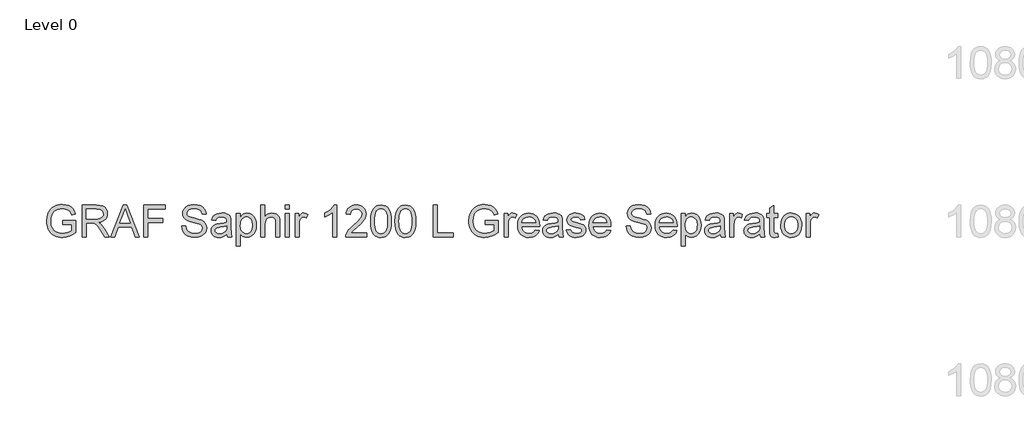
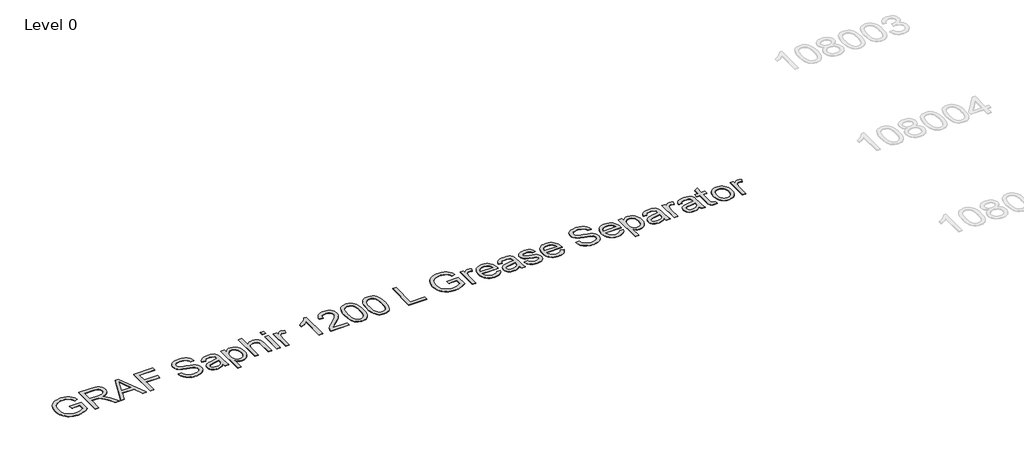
# One storey, part 1 of 15: 1 proxy.
"""IFC4 building model written with IfcOpenShell, lengths in millimetres."""

from ifc_helpers import new_model, si_unit, origin, origin_with_axes, place, context, project, spatial, polyline, outline, extrude, element, save

model = new_model("IFC4")

# Units and contexts
model_context = context("Model", 3, world=origin())
ifc_project = project(units=[si_unit("LENGTHUNIT", "METRE", prefix="MILLI")], contexts=[model_context])

# Site, building, storey
site = spatial("IfcSite", under=ifc_project)
building = spatial("IfcBuilding", under=site)
storey = spatial("IfcBuildingStorey", under=building, Name="Level 0", Elevation=0.0)

# Proxy
placement = place(None, origin())
element("IfcBuildingElementProxy", 1, Name="400mm Arial", ObjectType="400mm Arial", at=placement, inside=storey, context=model_context, shape_type="SweptSolid", body=[
    extrude(outline(polyline([(-14937.8149833, 2305.9861864), (-14937.8149833, 2356.2143415), (-14774.5734793, 2356.2143415), (-14774.5734793, 2206.0203856), (-14814.2434211, 2178.429236), (-14855.1641617, 2158.6371846), (-14897.2375993, 2146.717808), (-14940.3656318, 2142.7446824), (-14969.2167773, 2144.3235093), (-14996.7128907, 2149.05999), (-15022.8539722, 2156.9541245), (-15047.6400216, 2168.0059128), (-15070.2708957, 2182.0498079), (-15089.9464511, 2198.9202631), (-15106.6666877, 2218.6172783), (-15120.4316057, 2241.1408534), (-15131.182957, 2265.770553), (-15138.8624937, 2291.7859414), (-15143.4702157, 2319.1870187), (-15145.006123, 2347.9737848), (-15138.8870191, 2404.5662984), (-15131.2381393, 2431.3818302), (-15120.5297076, 2457.2102119), (-15106.9517963, 2480.9171408), (-15090.6944778, 2501.3683141), (-15071.7577521, 2518.5637317), (-15050.1416192, 2532.5033936), (-15026.3151286, 2543.2762047), (-15000.74733, 2550.9710698), (-14973.4382232, 2555.5879888), (-14944.3878083, 2557.1269618), (-14903.0133466, 2553.5585065), (-14865.8082141, 2542.8531404), (-14834.4769309, 2525.7834158), (-14810.7240167, 2503.1218849), (-14793.1515201, 2473.7771644), (-14780.3614894, 2436.6578711), (-14826.6655698, 2423.610323), (-14837.0030539, 2450.0855639), (-14849.5723554, 2470.0615563), (-14866.2006216, 2485.1201926), (-14888.7149997, 2496.8433655), (-14915.5581226, 2504.3849464), (-14945.1726232, 2506.8988067), (-14979.8393699, 2504.1887427), (-15009.478396, 2496.0585506), (-15033.9793369, 2483.5260373), (-15053.2318279, 2467.6090096), (-15068.0084214, 2449.1290708), (-15079.0816695, 2428.9078238), (-15090.8538933, 2390.9914528), (-15094.7779679, 2350.033924), (-15090.0568157, 2302.0007981), (-15075.8933588, 2262.4780091), (-15052.7167931, 2231.7475998), (-15020.9563142, 2210.091613), (-14983.78797, 2197.2525314), (-14944.3878083, 2192.9728375), (-14909.5984343, 2196.1979363), (-14875.6674516, 2205.8732328), (-14846.2001038, 2219.2028238), (-14824.8016344, 2233.390806), (-14824.8016344, 2305.9861864), (-14937.8149833, 2305.9861864)])), origin_with_axes(), (0.0, 0.0, 1.0), 5.0),
    extrude(outline(polyline([(-14692.9527273, 2149.0232018), (-14692.9527273, 2550.8484424), (-14519.8029349, 2550.8484424), (-14473.2658625, 2548.1383784), (-14439.4084563, 2540.0081863), (-14414.6622607, 2524.9986009), (-14395.4588206, 2501.6503569), (-14383.1347737, 2472.6980439), (-14379.0267581, 2440.8762513), (-14380.7282123, 2420.2380714), (-14385.832575, 2401.2921486), (-14394.3398462, 2384.0384831), (-14406.2500258, 2368.4770747), (-14421.716398, 2355.1045642), (-14440.892247, 2344.4175922), (-14463.7775727, 2336.4161588), (-14490.3723753, 2331.100264), (-14461.8247325, 2309.6159554), (-14421.1124584, 2257.9162724), (-14354.1088843, 2149.0232018), (-14412.4794942, 2149.0232018), (-14464.7677885, 2232.3116855), (-14502.5370066, 2287.4449339), (-14516.5778361, 2303.5213771), (-14529.0735612, 2313.4909791), (-14552.9613654, 2323.055911), (-14582.0976194, 2324.8217446), (-14642.7245723, 2324.8217446), (-14642.7245723, 2149.0232018), (-14692.9527273, 2149.0232018)]), holes=[polyline([(-14642.7245723, 2375.0498997), (-14530.2998345, 2375.0498997), (-14498.0120581, 2376.827996), (-14472.9592942, 2382.1622849), (-14454.0992106, 2391.4083857), (-14440.3894749, 2404.9219177), (-14432.0385536, 2421.268141), (-14429.2549132, 2439.0123159), (-14434.5646766, 2463.5132568), (-14450.493967, 2483.2562572), (-14462.6555327, 2490.8530204), (-14477.9011757, 2496.2792798), (-14517.6446939, 2500.6202873), (-14642.7245723, 2500.6202873), (-14642.7245723, 2375.0498997)])]), origin_with_axes(), (0.0, 0.0, 1.0), 5.0),
    extrude(outline(polyline([(-14337.9220765, 2149.0232018), (-14177.5255266, 2550.8484424), (-14134.7531133, 2550.8484424), (-13974.3565634, 2149.0232018), (-14027.4296726, 2149.0232018), (-14073.4394475, 2274.5935895), (-14238.9372943, 2274.5935895), (-14284.8489673, 2149.0232018), (-14337.9220765, 2149.0232018)]), holes=[polyline([(-14220.4941437, 2324.8217446), (-14091.7844963, 2324.8217446), (-14127.9840846, 2423.610323), (-14156.13932, 2500.6202873), (-14181.1552956, 2432.2432872), (-14220.4941437, 2324.8217446)])]), origin_with_axes(), (0.0, 0.0, 1.0), 5.0),
    extrude(outline(polyline([(-13920.6948431, 2149.0232018), (-13920.6948431, 2550.8484424), (-13650.7185095, 2550.8484424), (-13650.7185095, 2500.6202873), (-13870.466688, 2500.6202873), (-13870.466688, 2381.328419), (-13682.1111064, 2381.328419), (-13682.1111064, 2331.100264), (-13870.466688, 2331.100264), (-13870.466688, 2149.0232018), (-13920.6948431, 2149.0232018)])), origin_with_axes(), (0.0, 0.0, 1.0), 5.0),
    extrude(outline(polyline([(-13443.5273698, 2287.1506283), (-13393.2992148, 2287.1506283), (-13387.5357302, 2259.2774358), (-13377.112407, 2236.8734223), (-13360.8520228, 2219.0924592), (-13337.5773552, 2205.0884179), (-13309.1278143, 2196.0017326), (-13277.3428099, 2192.9728375), (-13249.3592528, 2195.2659686), (-13224.8583119, 2202.1453619), (-13205.0049469, 2213.034669), (-13190.9641174, 2227.3575413), (-13182.6131961, 2243.8018665), (-13179.8295557, 2261.0555321), (-13181.9142203, 2277.8677393), (-13188.1682143, 2292.3990781), (-13200.8724058, 2304.7967013), (-13222.3076634, 2315.2077618), (-13295.4426041, 2334.3866765), (-13343.4512044, 2347.0786053), (-13374.169351, 2359.1573975), (-13399.173064, 2376.0554438), (-13416.8927134, 2396.5342082), (-13427.4509267, 2420.1522323), (-13430.9703311, 2446.4680577), (-13426.6170608, 2475.8863545), (-13413.55725, 2503.3180886), (-13392.1342551, 2526.5682307), (-13362.6914328, 2543.4417516), (-13327.3502358, 2553.7056592), (-13288.2321169, 2557.1269618), (-13245.8521111, 2553.5462437), (-13208.769606, 2542.8040895), (-13178.3089768, 2525.1212282), (-13155.7945987, 2500.7183892), (-13141.5453027, 2471.1161513), (-13135.87992, 2437.8350935), (-13186.1080751, 2437.8350935), (-13195.3296504, 2467.8052134), (-13203.6928345, 2479.6632764), (-13214.557616, 2489.4366747), (-13244.6013123, 2502.5332737), (-13286.2700796, 2506.8988067), (-13328.9198656, 2502.5823247), (-13345.2231694, 2497.1867221), (-13358.178747, 2489.6328784), (-13375.1013187, 2470.5765911), (-13380.742176, 2447.9395856), (-13376.744525, 2428.6380436), (-13364.7515719, 2413.1134234), (-13336.4001328, 2399.2320095), (-13282.7384125, 2385.0562899), (-13227.3599095, 2371.5918089), (-13193.8581224, 2359.8441105), (-13165.2246405, 2341.621689), (-13145.2486482, 2319.1318364), (-13133.5132125, 2292.6198073), (-13129.6014006, 2262.3308563), (-13134.1018237, 2231.3674551), (-13147.6030929, 2202.2434638), (-13169.5533853, 2177.1784372), (-13199.4008778, 2158.39193), (-13235.2938978, 2146.6564943), (-13275.3807726, 2142.7446824), (-13324.5911208, 2146.9630626), (-13365.0949285, 2159.6182033), (-13397.3581794, 2180.7591553), (-13421.8468576, 2210.4349695), (-13437.5676815, 2246.5855069), (-13443.5273698, 2287.1506283)])), origin_with_axes(), (0.0, 0.0, 1.0), 5.0),
    extrude(outline(polyline([(-12872.1821059, 2186.6943181), (-12896.1802747, 2166.1174519), (-12920.889682, 2152.6529708), (-12946.8744136, 2145.2217545), (-12974.6985552, 2142.7446824), (-12997.0627148, 2144.2346045), (-13016.6738908, 2148.7043708), (-13033.5320833, 2156.1539812), (-13047.6372921, 2166.5834357), (-13058.7749195, 2179.3305469), (-13066.7303676, 2193.733127), (-13071.5036365, 2209.7911761), (-13073.0947262, 2227.5046941), (-13070.6912305, 2248.3268151), (-13063.4807434, 2267.2359496), (-13052.3584444, 2283.4227574), (-13038.219513, 2296.077898), (-13021.6035096, 2305.6428299), (-13003.0499943, 2312.5590114), (-12959.5908679, 2320.112855), (-12908.2345414, 2328.0591061), (-12872.4764115, 2337.3787834), (-12872.1821059, 2348.562396), (-12875.6401966, 2370.9786722), (-12886.0144689, 2385.6449011), (-12909.21556, 2396.5342082), (-12941.5401247, 2400.1639772), (-12971.4611936, 2397.7482188), (-12992.356891, 2390.5009435), (-13006.6061869, 2377.0977761), (-13016.5880517, 2356.2143415), (-13066.8162068, 2362.4928609), (-13058.0974035, 2389.9613832), (-13045.0866436, 2411.5437936), (-13026.5699165, 2428.0494324), (-13001.3332116, 2440.2876401), (-12970.4679122, 2447.8660092), (-12935.0654016, 2450.3921323), (-12901.1098934, 2448.1603148), (-12874.1931941, 2441.4648625), (-12853.8983707, 2431.3971586), (-12839.8084903, 2419.0485863), (-12830.4642876, 2403.7814835), (-12824.4064974, 2384.9581881), (-12821.9539508, 2341.0085524), (-12821.9539508, 2278.5176641), (-12819.4033023, 2191.2560549), (-12809.396912, 2149.0232018), (-12859.6250671, 2149.0232018), (-12867.6694201, 2166.4853339), (-12872.1821059, 2186.6943181)]), holes=[polyline([(-12872.1821059, 2287.1506283), (-12905.9291476, 2278.7874443), (-12953.2142467, 2271.7486354), (-12996.4281184, 2263.6061806), (-13007.6730447, 2258.0388997), (-13015.9994405, 2250.3624288), (-13021.1497884, 2241.1653789), (-13022.8665711, 2231.0363613), (-13019.1264375, 2216.1003523), (-13007.9060366, 2203.8621446), (-12989.4506232, 2195.6951643), (-12964.0054519, 2192.9728375), (-12937.0274389, 2195.9772071), (-12913.1886856, 2204.990316), (-12893.8626181, 2218.270856), (-12880.4226626, 2234.0775191), (-12874.4629742, 2250.3624288), (-12872.4764115, 2272.9258578), (-12872.1821059, 2287.1506283)])]), origin_with_axes(), (0.0, 0.0, 1.0), 5.0),
    extrude(outline(polyline([(-12752.8902376, 2036.0098529), (-12752.8902376, 2444.1136129), (-12702.6620825, 2444.1136129), (-12702.6620825, 2394.8664765), (-12686.279071, 2419.1589509), (-12667.9340221, 2436.5107183), (-12646.5478155, 2446.9217788), (-12621.0413305, 2450.3921323), (-12587.0735596, 2445.5360899), (-12557.3732199, 2430.9679629), (-12533.19111, 2407.570668), (-12515.7780289, 2376.227122), (-12505.2566039, 2339.2181933), (-12501.7494622, 2298.8247503), (-12505.710325, 2255.868396), (-12517.5929134, 2217.4492529), (-12537.0170828, 2185.5170957), (-12563.6026883, 2162.021699), (-12594.5660896, 2147.5639366), (-12627.1236461, 2142.7446824), (-12650.2143727, 2145.9697813), (-12670.8280272, 2155.6450777), (-12688.4741002, 2170.2499929), (-12702.6620825, 2188.263948), (-12702.6620825, 2036.0098529), (-12752.8902376, 2036.0098529)]), holes=[polyline([(-12702.6620825, 2294.2139626), (-12697.2296917, 2249.1852064), (-12690.4392032, 2231.7475998), (-12680.9325193, 2217.6945076), (-12656.8852996, 2199.153255), (-12643.1234473, 2194.5179419), (-12628.2027667, 2192.9728375), (-12613.0674882, 2194.5731242), (-12599.0542499, 2199.3739842), (-12586.1630517, 2207.3754176), (-12574.3938935, 2218.5774244), (-12564.5867726, 2233.13942), (-12557.5816863, 2251.2208201), (-12553.3786345, 2272.8216246), (-12551.9776173, 2297.9418335), (-12557.4467963, 2342.725335), (-12564.28327, 2360.2978317), (-12573.8543332, 2374.6574922), (-12597.8647648, 2393.7873559), (-12611.4702673, 2398.5698219), (-12626.1426275, 2400.1639772), (-12640.7690025, 2398.4686543), (-12654.5308548, 2393.3826858), (-12679.4609913, 2373.0388114), (-12689.6114687, 2357.9403212), (-12696.8618097, 2339.7700163), (-12701.2120143, 2318.5278968), (-12702.6620825, 2294.2139626)])]), origin_with_axes(), (0.0, 0.0, 1.0), 5.0),
    extrude(outline(polyline([(-12445.2427877, 2149.0232018), (-12445.2427877, 2550.8484424), (-12395.0146327, 2550.8484424), (-12395.0146327, 2403.1070332), (-12376.5653506, 2423.794264), (-12355.8474629, 2438.5708575), (-12332.8609696, 2447.4368136), (-12307.6058706, 2450.3921323), (-12277.2678687, 2447.1670334), (-12251.197298, 2437.491737), (-12230.6694827, 2422.1265323), (-12216.959747, 2401.8317089), (-12209.2342251, 2373.9462537), (-12206.6590511, 2335.8091535), (-12206.6590511, 2149.0232018), (-12256.8872062, 2149.0232018), (-12256.8872062, 2330.6097546), (-12260.8848572, 2362.0514025), (-12272.8778103, 2383.5847619), (-12292.2038777, 2396.0191734), (-12318.2008721, 2400.1639772), (-12339.4276632, 2397.368074), (-12359.3546046, 2388.9803645), (-12375.8602434, 2375.8101891), (-12386.8231269, 2358.6668881), (-12392.9667562, 2335.8827299), (-12395.0146327, 2305.7899827), (-12395.0146327, 2149.0232018), (-12445.2427877, 2149.0232018)])), origin_with_axes(), (0.0, 0.0, 1.0), 5.0),
    extrude(outline(polyline([(-12137.5953379, 2500.6202873), (-12137.5953379, 2550.8484424), (-12087.3671828, 2550.8484424), (-12087.3671828, 2500.6202873), (-12137.5953379, 2500.6202873)])), origin_with_axes(), (0.0, 0.0, 1.0), 5.0),
    extrude(outline(polyline([(-12137.5953379, 2149.0232018), (-12137.5953379, 2444.1136129), (-12087.3671828, 2444.1136129), (-12087.3671828, 2149.0232018), (-12137.5953379, 2149.0232018)])), origin_with_axes(), (0.0, 0.0, 1.0), 5.0),
    extrude(outline(polyline([(-12012.0249502, 2149.0232018), (-12012.0249502, 2444.1136129), (-11968.0753145, 2444.1136129), (-11968.0753145, 2400.4582828), (-11951.8394558, 2425.7685641), (-11936.8789213, 2440.6800476), (-11921.8693359, 2447.9641111), (-11905.4863244, 2450.3921323), (-11880.4703487, 2446.5171086), (-11855.0619656, 2434.8920375), (-11871.8373846, 2389.8632813), (-11889.4957204, 2397.5888032), (-11907.1540561, 2400.1639772), (-11922.1513788, 2397.6869051), (-11935.5545461, 2390.2556888), (-11946.3825395, 2378.434414), (-11953.6543403, 2362.7871665), (-11959.7611814, 2334.730033), (-11961.7967951, 2304.122251), (-11961.7967951, 2149.0232018), (-12012.0249502, 2149.0232018)])), origin_with_axes(), (0.0, 0.0, 1.0), 5.0),
    extrude(outline(polyline([(-11490.9078413, 2149.0232018), (-11541.1359964, 2149.0232018), (-11541.1359964, 2462.1643561), (-11562.1052701, 2445.2049961), (-11588.7154011, 2428.2701616), (-11641.5923065, 2402.9108294), (-11641.5923065, 2450.3921323), (-11602.1430939, 2471.8519153), (-11567.9668566, 2497.3829258), (-11541.0256318, 2524.532617), (-11523.2814569, 2550.8484424), (-11490.9078413, 2550.8484424), (-11490.9078413, 2149.0232018)])), origin_with_axes(), (0.0, 0.0, 1.0), 5.0),
    extrude(outline(polyline([(-11114.1966782, 2199.2513569), (-11114.1966782, 2149.0232018), (-11377.8944924, 2149.0232018), (-11376.7908464, 2166.7060631), (-11372.4988898, 2183.6531603), (-11360.1135293, 2210.7170124), (-11341.9892097, 2236.9715241), (-11315.7714861, 2264.4523092), (-11279.105914, 2295.1949812), (-11224.9046333, 2343.3384717), (-11192.383865, 2378.8758724), (-11176.1234808, 2407.7178208), (-11170.7033527, 2435.7749543), (-11175.8169124, 2460.9258201), (-11191.1575916, 2481.8337801), (-11214.7388275, 2495.9236605), (-11244.5740573, 2500.6202873), (-11275.9053406, 2496.0340251), (-11300.2468659, 2482.2752385), (-11315.9554271, 2460.423048), (-11321.3878179, 2431.5565741), (-11371.615973, 2437.8350935), (-11367.2964252, 2463.7646428), (-11359.439079, 2486.4200423), (-11348.0439342, 2505.8012921), (-11333.1109908, 2521.9083921), (-11314.9836055, 2534.5696641), (-11294.0051348, 2543.6134298), (-11270.1755785, 2549.0396893), (-11243.4949368, 2550.8484424), (-11216.5751718, 2548.8373542), (-11192.6168569, 2542.8040895), (-11171.619992, 2532.7486483), (-11153.5845772, 2518.6710306), (-11139.0992236, 2501.6135687), (-11128.7525425, 2482.618595), (-11122.5445339, 2461.6861095), (-11120.4751976, 2438.8161122), (-11122.7070151, 2414.7934179), (-11129.4024674, 2391.1876565), (-11141.2850558, 2367.177225), (-11159.0782817, 2341.9405201), (-11187.4419835, 2311.8109847), (-11231.0359999, 2273.1220615), (-11288.8179986, 2224.8068928), (-11311.4795295, 2199.2513569), (-11114.1966782, 2199.2513569)])), origin_with_axes(), (0.0, 0.0, 1.0), 5.0),
    extrude(outline(polyline([(-11063.9685232, 2346.6984606), (-11060.2774405, 2411.0164961), (-11049.2041924, 2462.3115089), (-11030.8591436, 2501.3683141), (-11019.0010806, 2516.6016944), (-11005.3526586, 2528.9717264), (-10989.8678923, 2538.5427897), (-10972.5007964, 2545.3792634), (-10932.1196161, 2550.8484424), (-10901.1684776, 2547.6110809), (-10873.4547006, 2537.8989962), (-10850.2781349, 2522.0923331), (-10832.9386302, 2500.5712364), (-10819.8420312, 2473.519647), (-10809.3941825, 2441.121506), (-10802.5515774, 2399.9800362), (-10800.270709, 2346.6984606), (-10803.9250035, 2282.7483071), (-10814.887887, 2231.5759215), (-10833.1225712, 2192.4823282), (-10844.953043, 2177.2029627), (-10858.592268, 2164.7685512), (-10874.0954284, 2155.1331086), (-10891.5177066, 2148.2506496), (-10932.1196161, 2142.7446824), (-10959.7843421, 2145.1359154), (-10984.3098085, 2152.3096143), (-11005.6960151, 2164.2657792), (-11023.9429621, 2181.0044099), (-11041.4541451, 2211.262704), (-11053.9621329, 2248.9644772), (-11061.4669256, 2294.1097294), (-11063.9685232, 2346.6984606)]), holes=[polyline([(-11013.7403681, 2346.7965624), (-11012.2688401, 2303.1320353), (-11007.8542562, 2267.7877726), (-11000.4966163, 2240.7637744), (-10990.1959204, 2222.0600406), (-10977.7369835, 2209.3343892), (-10963.9046205, 2200.2446383), (-10948.6988314, 2194.7907877), (-10932.1196161, 2192.9728375), (-10915.5404009, 2194.7969191), (-10900.3346117, 2200.2691637), (-10886.5022487, 2209.3895715), (-10874.0433118, 2222.1581425), (-10863.7426159, 2240.8925331), (-10856.384976, 2267.9103999), (-10851.9703921, 2303.2117431), (-10850.4988641, 2346.7965624), (-10851.9213412, 2389.305327), (-10856.1887723, 2424.0272559), (-10863.3011575, 2450.9623494), (-10873.2584969, 2470.1106072), (-10885.5089673, 2483.4585923), (-10899.5007459, 2492.9928673), (-10915.2338325, 2498.7134323), (-10932.7082273, 2500.6202873), (-10949.2016034, 2498.9402929), (-10964.1498751, 2493.9003096), (-10977.5530425, 2485.5003373), (-10989.4111055, 2473.7403762), (-11000.0551579, 2452.8937298), (-11007.6580524, 2424.7875454), (-11012.2197892, 2389.4218229), (-11013.7403681, 2346.7965624)])]), origin_with_axes(), (0.0, 0.0, 1.0), 5.0),
    extrude(outline(polyline([(-10756.3210733, 2346.6984606), (-10752.6299907, 2411.0164961), (-10741.5567426, 2462.3115089), (-10723.2116938, 2501.3683141), (-10711.3536308, 2516.6016944), (-10697.7052088, 2528.9717264), (-10682.2204425, 2538.5427897), (-10664.8533466, 2545.3792634), (-10624.4721663, 2550.8484424), (-10593.5210277, 2547.6110809), (-10565.8072508, 2537.8989962), (-10542.6306851, 2522.0923331), (-10525.2911804, 2500.5712364), (-10512.1945813, 2473.519647), (-10501.7467327, 2441.121506), (-10494.9041276, 2399.9800362), (-10492.6232592, 2346.6984606), (-10496.2775537, 2282.7483071), (-10507.2404371, 2231.5759215), (-10525.4751214, 2192.4823282), (-10537.3055932, 2177.2029627), (-10550.9448182, 2164.7685512), (-10566.4479786, 2155.1331086), (-10583.8702567, 2148.2506496), (-10624.4721663, 2142.7446824), (-10652.1368923, 2145.1359154), (-10676.6623587, 2152.3096143), (-10698.0485653, 2164.2657792), (-10716.2955123, 2181.0044099), (-10733.8066952, 2211.262704), (-10746.3146831, 2248.9644772), (-10753.8194758, 2294.1097294), (-10756.3210733, 2346.6984606)]), holes=[polyline([(-10706.0929183, 2346.7965624), (-10704.6213903, 2303.1320353), (-10700.2068063, 2267.7877726), (-10692.8491664, 2240.7637744), (-10682.5484706, 2222.0600406), (-10670.0895337, 2209.3343892), (-10656.2571707, 2200.2446383), (-10641.0513815, 2194.7907877), (-10624.4721663, 2192.9728375), (-10607.892951, 2194.7969191), (-10592.6871619, 2200.2691637), (-10578.8547989, 2209.3895715), (-10566.395862, 2222.1581425), (-10556.0951661, 2240.8925331), (-10548.7375262, 2267.9103999), (-10544.3229423, 2303.2117431), (-10542.8514143, 2346.7965624), (-10544.2738913, 2389.305327), (-10548.5413225, 2424.0272559), (-10555.6537077, 2450.9623494), (-10565.611047, 2470.1106072), (-10577.8615175, 2483.4585923), (-10591.853296, 2492.9928673), (-10607.5863827, 2498.7134323), (-10625.0607775, 2500.6202873), (-10641.5541536, 2498.9402929), (-10656.5024253, 2493.9003096), (-10669.9055927, 2485.5003373), (-10681.7636557, 2473.7403762), (-10692.407708, 2452.8937298), (-10700.0106026, 2424.7875454), (-10704.5723394, 2389.4218229), (-10706.0929183, 2346.7965624)])]), origin_with_axes(), (0.0, 0.0, 1.0), 5.0),
    extrude(outline(polyline([(-10272.8750807, 2149.0232018), (-10272.8750807, 2550.8484424), (-10222.6469257, 2550.8484424), (-10222.6469257, 2199.2513569), (-10021.7343054, 2199.2513569), (-10021.7343054, 2149.0232018), (-10272.8750807, 2149.0232018)])), origin_with_axes(), (0.0, 0.0, 1.0), 5.0),
    extrude(outline(polyline([(-9619.9090648, 2305.9861864), (-9619.9090648, 2356.2143415), (-9456.6675608, 2356.2143415), (-9456.6675608, 2206.0203856), (-9496.3375026, 2178.429236), (-9537.2582432, 2158.6371846), (-9579.3316807, 2146.717808), (-9622.4597133, 2142.7446824), (-9651.3108587, 2144.3235093), (-9678.8069722, 2149.05999), (-9704.9480536, 2156.9541245), (-9729.7341031, 2168.0059128), (-9752.3649771, 2182.0498079), (-9772.0405325, 2198.9202631), (-9788.7607692, 2218.6172783), (-9802.5256872, 2241.1408534), (-9813.2770385, 2265.770553), (-9820.9565751, 2291.7859414), (-9825.5642971, 2319.1870187), (-9827.1002045, 2347.9737848), (-9820.9811006, 2404.5662984), (-9813.3322208, 2431.3818302), (-9802.623789, 2457.2102119), (-9789.0458777, 2480.9171408), (-9772.7885592, 2501.3683141), (-9753.8518335, 2518.5637317), (-9732.2357006, 2532.5033936), (-9708.4092101, 2543.2762047), (-9682.8414114, 2550.9710698), (-9655.5323046, 2555.5879888), (-9626.4818898, 2557.1269618), (-9585.107428, 2553.5585065), (-9547.9022956, 2542.8531404), (-9516.5710123, 2525.7834158), (-9492.8180982, 2503.1218849), (-9475.2456015, 2473.7771644), (-9462.4555708, 2436.6578711), (-9508.7596513, 2423.610323), (-9519.0971354, 2450.0855639), (-9531.6664369, 2470.0615563), (-9548.294703, 2485.1201926), (-9570.8090812, 2496.8433655), (-9597.6522041, 2504.3849464), (-9627.2667047, 2506.8988067), (-9661.9334514, 2504.1887427), (-9691.5724774, 2496.0585506), (-9716.0734183, 2483.5260373), (-9735.3259094, 2467.6090096), (-9750.1025029, 2449.1290708), (-9761.1757509, 2428.9078238), (-9772.9479748, 2390.9914528), (-9776.8720494, 2350.033924), (-9772.1508971, 2302.0007981), (-9757.9874403, 2262.4780091), (-9734.8108746, 2231.7475998), (-9703.0503957, 2210.091613), (-9665.8820514, 2197.2525314), (-9626.4818898, 2192.9728375), (-9591.6925157, 2196.1979363), (-9557.7615331, 2205.8732328), (-9528.2941852, 2219.2028238), (-9506.8957159, 2233.390806), (-9506.8957159, 2305.9861864), (-9619.9090648, 2305.9861864)])), origin_with_axes(), (0.0, 0.0, 1.0), 5.0),
    extrude(outline(polyline([(-9381.3253282, 2149.0232018), (-9381.3253282, 2444.1136129), (-9337.3756925, 2444.1136129), (-9337.3756925, 2400.4582828), (-9321.1398338, 2425.7685641), (-9306.1792993, 2440.6800476), (-9291.1697139, 2447.9641111), (-9274.7867024, 2450.3921323), (-9249.7707267, 2446.5171086), (-9224.3623436, 2434.8920375), (-9241.1377625, 2389.8632813), (-9258.7960983, 2397.5888032), (-9276.4544341, 2400.1639772), (-9291.4517567, 2397.6869051), (-9304.8549241, 2390.2556888), (-9315.6829175, 2378.434414), (-9322.9547183, 2362.7871665), (-9329.0615594, 2334.730033), (-9331.0971731, 2304.122251), (-9331.0971731, 2149.0232018), (-9381.3253282, 2149.0232018)])), origin_with_axes(), (0.0, 0.0, 1.0), 5.0),
    extrude(outline(polyline([(-8986.3672181, 2236.9224732), (-8937.1200817, 2230.6439538), (-8944.6708597, 2210.9193475), (-8954.8642566, 2193.5369232), (-8967.7002726, 2178.496681), (-8983.1789075, 2165.7986208), (-9001.1407459, 2155.7125228), (-9021.4263723, 2148.508167), (-9068.9689888, 2142.7446824), (-9100.1347252, 2145.2309516), (-9127.9036844, 2152.689759), (-9152.2758666, 2165.1211048), (-9173.2512717, 2182.5249888), (-9190.1186612, 2204.4170332), (-9202.1667965, 2230.31286), (-9209.3956777, 2260.2124692), (-9211.8053048, 2294.1158607), (-9209.3711523, 2329.1688835), (-9202.0686947, 2360.0648397), (-9189.897932, 2386.8037294), (-9172.8588642, 2409.3855525), (-9151.9386414, 2427.3259312), (-9128.1244136, 2440.1404873), (-9101.4161808, 2447.829221), (-9071.8139429, 2450.3921323), (-9043.1651325, 2447.8353524), (-9017.257043, 2440.1650128), (-8994.0896744, 2427.3811135), (-8973.6630266, 2409.4836544), (-8956.9887751, 2386.9508822), (-8945.0785956, 2360.2610435), (-8937.9324878, 2329.4141382), (-8935.5504519, 2294.4101663), (-8935.8447575, 2280.8721089), (-9161.5771497, 2280.8721089), (-9158.6678163, 2260.8286715), (-9152.8828719, 2243.274569), (-9144.2223166, 2228.2098013), (-9132.6861504, 2215.6343684), (-9118.9120353, 2205.7199486), (-9103.5376336, 2198.6382202), (-9067.9879701, 2192.9728375), (-9041.2552118, 2195.5970624), (-9018.7408337, 2203.4697371), (-9000.4448358, 2217.0813709), (-8986.3672181, 2236.9224732)]), holes=[polyline([(-9161.5771497, 2331.100264), (-8985.778607, 2331.100264), (-8992.5721611, 2357.6368186), (-9005.8894894, 2376.6195295), (-9019.5869623, 2386.9202254), (-9035.1728962, 2394.2778653), (-9052.6472909, 2398.6924492), (-9072.0101466, 2400.1639772), (-9105.8675529, 2395.4673504), (-9133.8633727, 2381.37747), (-9153.3243303, 2359.4149149), (-9161.5771497, 2331.100264)])]), origin_with_axes(), (0.0, 0.0, 1.0), 5.0),
    extrude(outline(polyline([(-8696.9667153, 2186.6943181), (-8720.9648841, 2166.1174519), (-8745.6742914, 2152.6529708), (-8771.659023, 2145.2217545), (-8799.4831646, 2142.7446824), (-8821.8473242, 2144.2346045), (-8841.4585002, 2148.7043708), (-8858.3166927, 2156.1539812), (-8872.4219015, 2166.5834357), (-8883.5595289, 2179.3305469), (-8891.5149771, 2193.733127), (-8896.2882459, 2209.7911761), (-8897.8793356, 2227.5046941), (-8895.4758399, 2248.3268151), (-8888.2653528, 2267.2359496), (-8877.1430538, 2283.4227574), (-8863.0041224, 2296.077898), (-8846.388119, 2305.6428299), (-8827.8346037, 2312.5590114), (-8784.3754773, 2320.112855), (-8733.0191508, 2328.0591061), (-8697.2610209, 2337.3787834), (-8696.9667153, 2348.562396), (-8700.424806, 2370.9786722), (-8710.7990783, 2385.6449011), (-8734.0001695, 2396.5342082), (-8766.3247341, 2400.1639772), (-8796.245803, 2397.7482188), (-8817.1415004, 2390.5009435), (-8831.3907963, 2377.0977761), (-8841.3726611, 2356.2143415), (-8891.6008162, 2362.4928609), (-8882.8820129, 2389.9613832), (-8869.871253, 2411.5437936), (-8851.3545259, 2428.0494324), (-8826.117821, 2440.2876401), (-8795.2525217, 2447.8660092), (-8759.850011, 2450.3921323), (-8725.8945028, 2448.1603148), (-8698.9778035, 2441.4648625), (-8678.6829801, 2431.3971586), (-8664.5930997, 2419.0485863), (-8655.248897, 2403.7814835), (-8649.1911068, 2384.9581881), (-8646.7385602, 2341.0085524), (-8646.7385602, 2278.5176641), (-8644.1879117, 2191.2560549), (-8634.1815214, 2149.0232018), (-8684.4096765, 2149.0232018), (-8692.4540295, 2166.4853339), (-8696.9667153, 2186.6943181)]), holes=[polyline([(-8696.9667153, 2287.1506283), (-8730.713757, 2278.7874443), (-8777.9988561, 2271.7486354), (-8821.2127278, 2263.6061806), (-8832.4576541, 2258.0388997), (-8840.7840499, 2250.3624288), (-8845.9343979, 2241.1653789), (-8847.6511805, 2231.0363613), (-8843.9110469, 2216.1003523), (-8832.690646, 2203.8621446), (-8814.2352326, 2195.6951643), (-8788.7900613, 2192.9728375), (-8761.8120483, 2195.9772071), (-8737.973295, 2204.990316), (-8718.6472275, 2218.270856), (-8705.207272, 2234.0775191), (-8699.2475836, 2250.3624288), (-8697.2610209, 2272.9258578), (-8696.9667153, 2287.1506283)])]), origin_with_axes(), (0.0, 0.0, 1.0), 5.0),
    extrude(outline(polyline([(-8596.5104051, 2236.9224732), (-8546.28225, 2243.2009926), (-8538.3605244, 2221.7166841), (-8523.032108, 2205.9222837), (-8500.1988988, 2196.2101991), (-8469.7627951, 2192.9728375), (-8439.6945733, 2195.9404189), (-8418.5536213, 2204.8431632), (-8406.0456335, 2217.7435585), (-8401.8763042, 2232.704093), (-8406.070159, 2245.5063864), (-8418.6517232, 2255.267522), (-8470.3514062, 2269.5903944), (-8545.9879445, 2294.1649117), (-8565.1300709, 2306.513484), (-8578.9992222, 2322.8597073), (-8587.4237198, 2342.1612493), (-8590.2318857, 2363.3757777), (-8587.9755428, 2382.8367352), (-8581.2065141, 2400.8016393), (-8570.5379363, 2416.5592514), (-8556.5829459, 2429.3983331), (-8524.6507887, 2444.2607657), (-8503.7673541, 2448.8592906), (-8481.436917, 2450.3921323), (-8448.7444704, 2447.9273229), (-8420.3194549, 2440.5328948), (-8397.4617203, 2428.9323492), (-8381.4711162, 2413.8491874), (-8370.8761147, 2394.1675007), (-8364.2051879, 2368.7713803), (-8414.433343, 2362.4928609), (-8420.773176, 2378.2995239), (-8433.3179521, 2390.2066379), (-8452.1902984, 2397.6746424), (-8477.5128424, 2400.1639772), (-8506.3547908, 2397.785007), (-8525.5827565, 2390.6480963), (-8536.3984871, 2380.3474004), (-8540.0037307, 2368.4770747), (-8534.0195169, 2353.8598967), (-8515.2820606, 2342.7743859), (-8472.019138, 2332.0812826), (-8398.2955861, 2308.4387331), (-8378.8223658, 2297.1324931), (-8364.0580351, 2281.6569238), (-8354.7506206, 2261.9629743), (-8351.6481491, 2238.0015937), (-8355.2901809, 2213.2308727), (-8366.2162761, 2189.9316797), (-8384.009502, 2169.9311619), (-8408.2529255, 2155.0564665), (-8437.5363323, 2145.8226285), (-8470.4495081, 2142.7446824), (-8497.4827034, 2144.2284732), (-8521.0945961, 2148.6798453), (-8541.2851863, 2156.0987989), (-8558.0544739, 2166.4853339), (-8571.7519468, 2179.7903994), (-8582.727093, 2195.9649444), (-8590.9799125, 2215.008969), (-8596.5104051, 2236.9224732)])), origin_with_axes(), (0.0, 0.0, 1.0), 5.0),
    extrude(outline(polyline([(-8088.5389462, 2236.9224732), (-8039.2918098, 2230.6439538), (-8046.8425877, 2210.9193475), (-8057.0359847, 2193.5369232), (-8069.8720006, 2178.496681), (-8085.3506356, 2165.7986208), (-8103.312474, 2155.7125228), (-8123.5981003, 2148.508167), (-8171.1407168, 2142.7446824), (-8202.3064532, 2145.2309516), (-8230.0754125, 2152.689759), (-8254.4475946, 2165.1211048), (-8275.4229997, 2182.5249888), (-8292.2903892, 2204.4170332), (-8304.3385246, 2230.31286), (-8311.5674058, 2260.2124692), (-8313.9770328, 2294.1158607), (-8311.5428803, 2329.1688835), (-8304.2404227, 2360.0648397), (-8292.06966, 2386.8037294), (-8275.0305923, 2409.3855525), (-8254.1103695, 2427.3259312), (-8230.2961417, 2440.1404873), (-8203.5879088, 2447.829221), (-8173.9856709, 2450.3921323), (-8145.3368606, 2447.8353524), (-8119.428771, 2440.1650128), (-8096.2614024, 2427.3811135), (-8075.8347546, 2409.4836544), (-8059.1605032, 2386.9508822), (-8047.2503236, 2360.2610435), (-8040.1042158, 2329.4141382), (-8037.7221799, 2294.4101663), (-8038.0164855, 2280.8721089), (-8263.7488778, 2280.8721089), (-8260.8395443, 2260.8286715), (-8255.0545999, 2243.274569), (-8246.3940446, 2228.2098013), (-8234.8578784, 2215.6343684), (-8221.0837634, 2205.7199486), (-8205.7093616, 2198.6382202), (-8170.1596982, 2192.9728375), (-8143.4269399, 2195.5970624), (-8120.9125618, 2203.4697371), (-8102.6165639, 2217.0813709), (-8088.5389462, 2236.9224732)]), holes=[polyline([(-8263.7488778, 2331.100264), (-8087.950335, 2331.100264), (-8094.7438892, 2357.6368186), (-8108.0612174, 2376.6195295), (-8121.7586903, 2386.9202254), (-8137.3446242, 2394.2778653), (-8154.819019, 2398.6924492), (-8174.1818747, 2400.1639772), (-8208.039281, 2395.4673504), (-8236.0351008, 2381.37747), (-8255.4960583, 2359.4149149), (-8263.7488778, 2331.100264)])]), origin_with_axes(), (0.0, 0.0, 1.0), 5.0),
    extrude(outline(polyline([(-7843.088079, 2287.1506283), (-7792.8599239, 2287.1506283), (-7787.0964393, 2259.2774358), (-7776.6731161, 2236.8734223), (-7760.412732, 2219.0924592), (-7737.1380644, 2205.0884179), (-7708.6885234, 2196.0017326), (-7676.903519, 2192.9728375), (-7648.9199619, 2195.2659686), (-7624.4190211, 2202.1453619), (-7604.5656561, 2213.034669), (-7590.5248266, 2227.3575413), (-7582.1739053, 2243.8018665), (-7579.3902649, 2261.0555321), (-7581.4749295, 2277.8677393), (-7587.7289234, 2292.3990781), (-7600.433115, 2304.7967013), (-7621.8683726, 2315.2077618), (-7695.0033132, 2334.3866765), (-7743.0119136, 2347.0786053), (-7773.7300602, 2359.1573975), (-7798.7337731, 2376.0554438), (-7816.4534226, 2396.5342082), (-7827.0116358, 2420.1522323), (-7830.5310402, 2446.4680577), (-7826.17777, 2475.8863545), (-7813.1179591, 2503.3180886), (-7791.6949643, 2526.5682307), (-7762.2521419, 2543.4417516), (-7726.9109449, 2553.7056592), (-7687.7928261, 2557.1269618), (-7645.4128203, 2553.5462437), (-7608.3303151, 2542.8040895), (-7577.8696859, 2525.1212282), (-7555.3553078, 2500.7183892), (-7541.1060119, 2471.1161513), (-7535.4406292, 2437.8350935), (-7585.6687842, 2437.8350935), (-7594.8903596, 2467.8052134), (-7603.2535436, 2479.6632764), (-7614.1183252, 2489.4366747), (-7644.1620215, 2502.5332737), (-7685.8307888, 2506.8988067), (-7728.4805748, 2502.5823247), (-7744.7838785, 2497.1867221), (-7757.7394561, 2489.6328784), (-7774.6620279, 2470.5765911), (-7780.3028852, 2447.9395856), (-7776.3052341, 2428.6380436), (-7764.3122811, 2413.1134234), (-7735.960842, 2399.2320095), (-7682.2991216, 2385.0562899), (-7626.9206186, 2371.5918089), (-7593.4188316, 2359.8441105), (-7564.7853497, 2341.621689), (-7544.8093573, 2319.1318364), (-7533.0739217, 2292.6198073), (-7529.1621098, 2262.3308563), (-7533.6625329, 2231.3674551), (-7547.1638021, 2202.2434638), (-7569.1140945, 2177.1784372), (-7598.961587, 2158.39193), (-7634.854607, 2146.6564943), (-7674.9414817, 2142.7446824), (-7724.15183, 2146.9630626), (-7764.6556376, 2159.6182033), (-7796.9188886, 2180.7591553), (-7821.4075668, 2210.4349695), (-7837.1283907, 2246.5855069), (-7843.088079, 2287.1506283)])), origin_with_axes(), (0.0, 0.0, 1.0), 5.0),
    extrude(outline(polyline([(-7253.4958681, 2236.9224732), (-7204.2487316, 2230.6439538), (-7211.7995096, 2210.9193475), (-7221.9929065, 2193.5369232), (-7234.8289225, 2178.496681), (-7250.3075574, 2165.7986208), (-7268.2693959, 2155.7125228), (-7288.5550222, 2148.508167), (-7336.0976387, 2142.7446824), (-7367.2633751, 2145.2309516), (-7395.0323343, 2152.689759), (-7419.4045165, 2165.1211048), (-7440.3799216, 2182.5249888), (-7457.2473111, 2204.4170332), (-7469.2954464, 2230.31286), (-7476.5243276, 2260.2124692), (-7478.9339547, 2294.1158607), (-7476.4998022, 2329.1688835), (-7469.1973446, 2360.0648397), (-7457.0265819, 2386.8037294), (-7439.9875142, 2409.3855525), (-7419.0672914, 2427.3259312), (-7395.2530635, 2440.1404873), (-7368.5448307, 2447.829221), (-7338.9425928, 2450.3921323), (-7310.2937824, 2447.8353524), (-7284.3856929, 2440.1650128), (-7261.2183243, 2427.3811135), (-7240.7916765, 2409.4836544), (-7224.1174251, 2386.9508822), (-7212.2072455, 2360.2610435), (-7205.0611377, 2329.4141382), (-7202.6791018, 2294.4101663), (-7202.9734074, 2280.8721089), (-7428.7057996, 2280.8721089), (-7425.7964662, 2260.8286715), (-7420.0115218, 2243.274569), (-7411.3509665, 2228.2098013), (-7399.8148003, 2215.6343684), (-7386.0406852, 2205.7199486), (-7370.6662835, 2198.6382202), (-7335.1166201, 2192.9728375), (-7308.3838617, 2195.5970624), (-7285.8694836, 2203.4697371), (-7267.5734857, 2217.0813709), (-7253.4958681, 2236.9224732)]), holes=[polyline([(-7428.7057996, 2331.100264), (-7252.9072569, 2331.100264), (-7259.7008111, 2357.6368186), (-7273.0181393, 2376.6195295), (-7286.7156122, 2386.9202254), (-7302.3015461, 2394.2778653), (-7319.7759409, 2398.6924492), (-7339.1387965, 2400.1639772), (-7372.9962028, 2395.4673504), (-7400.9920227, 2381.37747), (-7420.4529802, 2359.4149149), (-7428.7057996, 2331.100264)])]), origin_with_axes(), (0.0, 0.0, 1.0), 5.0),
    extrude(outline(polyline([(-7152.4509467, 2036.0098529), (-7152.4509467, 2444.1136129), (-7102.2227916, 2444.1136129), (-7102.2227916, 2394.8664765), (-7085.8397801, 2419.1589509), (-7067.4947313, 2436.5107183), (-7046.1085247, 2446.9217788), (-7020.6020397, 2450.3921323), (-6986.6342688, 2445.5360899), (-6956.933929, 2430.9679629), (-6932.7518192, 2407.570668), (-6915.3387381, 2376.227122), (-6904.817313, 2339.2181933), (-6901.3101713, 2298.8247503), (-6905.2710342, 2255.868396), (-6917.1536226, 2217.4492529), (-6936.577792, 2185.5170957), (-6963.1633975, 2162.021699), (-6994.1267987, 2147.5639366), (-7026.6843553, 2142.7446824), (-7049.7750819, 2145.9697813), (-7070.3887363, 2155.6450777), (-7088.0348094, 2170.2499929), (-7102.2227916, 2188.263948), (-7102.2227916, 2036.0098529), (-7152.4509467, 2036.0098529)]), holes=[polyline([(-7102.2227916, 2294.2139626), (-7096.7904009, 2249.1852064), (-7089.9999124, 2231.7475998), (-7080.4932285, 2217.6945076), (-7056.4460087, 2199.153255), (-7042.6841564, 2194.5179419), (-7027.7634758, 2192.9728375), (-7012.6281974, 2194.5731242), (-6998.6149591, 2199.3739842), (-6985.7237608, 2207.3754176), (-6973.9546027, 2218.5774244), (-6964.1474818, 2233.13942), (-6957.1423955, 2251.2208201), (-6952.9393437, 2272.8216246), (-6951.5383264, 2297.9418335), (-6957.0075054, 2342.725335), (-6963.8439792, 2360.2978317), (-6973.4150424, 2374.6574922), (-6997.425474, 2393.7873559), (-7011.0309764, 2398.5698219), (-7025.7033367, 2400.1639772), (-7040.3297116, 2398.4686543), (-7054.0915639, 2393.3826858), (-7079.0217005, 2373.0388114), (-7089.1721779, 2357.9403212), (-7096.4225189, 2339.7700163), (-7100.7727235, 2318.5278968), (-7102.2227916, 2294.2139626)])]), origin_with_axes(), (0.0, 0.0, 1.0), 5.0),
    extrude(outline(polyline([(-6656.4479154, 2186.6943181), (-6680.4460842, 2166.1174519), (-6705.1554915, 2152.6529708), (-6731.1402231, 2145.2217545), (-6758.9643647, 2142.7446824), (-6781.3285243, 2144.2346045), (-6800.9397003, 2148.7043708), (-6817.7978928, 2156.1539812), (-6831.9031016, 2166.5834357), (-6843.040729, 2179.3305469), (-6850.9961771, 2193.733127), (-6855.769446, 2209.7911761), (-6857.3605357, 2227.5046941), (-6854.95704, 2248.3268151), (-6847.7465529, 2267.2359496), (-6836.6242539, 2283.4227574), (-6822.4853225, 2296.077898), (-6805.8693191, 2305.6428299), (-6787.3158038, 2312.5590114), (-6743.8566774, 2320.112855), (-6692.5003509, 2328.0591061), (-6656.742221, 2337.3787834), (-6656.4479154, 2348.562396), (-6659.9060061, 2370.9786722), (-6670.2802784, 2385.6449011), (-6693.4813695, 2396.5342082), (-6725.8059342, 2400.1639772), (-6755.7270031, 2397.7482188), (-6776.6227005, 2390.5009435), (-6790.8719964, 2377.0977761), (-6800.8538612, 2356.2143415), (-6851.0820163, 2362.4928609), (-6842.363213, 2389.9613832), (-6829.3524531, 2411.5437936), (-6810.835726, 2428.0494324), (-6785.5990211, 2440.2876401), (-6754.7337217, 2447.8660092), (-6719.3312111, 2450.3921323), (-6685.3757029, 2448.1603148), (-6658.4590036, 2441.4648625), (-6638.1641802, 2431.3971586), (-6624.0742998, 2419.0485863), (-6614.7300971, 2403.7814835), (-6608.6723069, 2384.9581881), (-6606.2197603, 2341.0085524), (-6606.2197603, 2278.5176641), (-6603.6691118, 2191.2560549), (-6593.6627215, 2149.0232018), (-6643.8908766, 2149.0232018), (-6651.9352296, 2166.4853339), (-6656.4479154, 2186.6943181)]), holes=[polyline([(-6656.4479154, 2287.1506283), (-6690.1949571, 2278.7874443), (-6737.4800562, 2271.7486354), (-6780.6939279, 2263.6061806), (-6791.9388542, 2258.0388997), (-6800.26525, 2250.3624288), (-6805.4155979, 2241.1653789), (-6807.1323806, 2231.0363613), (-6803.392247, 2216.1003523), (-6792.1718461, 2203.8621446), (-6773.7164327, 2195.6951643), (-6748.2712614, 2192.9728375), (-6721.2932484, 2195.9772071), (-6697.4544951, 2204.990316), (-6678.1284276, 2218.270856), (-6664.6884721, 2234.0775191), (-6658.7287837, 2250.3624288), (-6656.742221, 2272.9258578), (-6656.4479154, 2287.1506283)])]), origin_with_axes(), (0.0, 0.0, 1.0), 5.0),
    extrude(outline(polyline([(-6537.1560471, 2149.0232018), (-6537.1560471, 2444.1136129), (-6493.2064114, 2444.1136129), (-6493.2064114, 2400.4582828), (-6476.9705526, 2425.7685641), (-6462.0100182, 2440.6800476), (-6447.0004328, 2447.9641111), (-6430.6174213, 2450.3921323), (-6405.6014456, 2446.5171086), (-6380.1930624, 2434.8920375), (-6396.9684814, 2389.8632813), (-6414.6268172, 2397.5888032), (-6432.285153, 2400.1639772), (-6447.2824756, 2397.6869051), (-6460.685643, 2390.2556888), (-6471.5136364, 2378.434414), (-6478.7854372, 2362.7871665), (-6484.8922783, 2334.730033), (-6486.927892, 2304.122251), (-6486.927892, 2149.0232018), (-6537.1560471, 2149.0232018)])), origin_with_axes(), (0.0, 0.0, 1.0), 5.0),
    extrude(outline(polyline([(-6160.444884, 2186.6943181), (-6184.4430528, 2166.1174519), (-6209.1524602, 2152.6529708), (-6235.1371918, 2145.2217545), (-6262.9613333, 2142.7446824), (-6285.3254929, 2144.2346045), (-6304.936669, 2148.7043708), (-6321.7948614, 2156.1539812), (-6335.9000702, 2166.5834357), (-6347.0376976, 2179.3305469), (-6354.9931458, 2193.733127), (-6359.7664147, 2209.7911761), (-6361.3575043, 2227.5046941), (-6358.9540086, 2248.3268151), (-6351.7435215, 2267.2359496), (-6340.6212225, 2283.4227574), (-6326.4822912, 2296.077898), (-6309.8662877, 2305.6428299), (-6291.3127724, 2312.5590114), (-6247.8536461, 2320.112855), (-6196.4973195, 2328.0591061), (-6160.7391896, 2337.3787834), (-6160.444884, 2348.562396), (-6163.9029748, 2370.9786722), (-6174.277247, 2385.6449011), (-6197.4783382, 2396.5342082), (-6229.8029028, 2400.1639772), (-6259.7239718, 2397.7482188), (-6280.6196691, 2390.5009435), (-6294.868965, 2377.0977761), (-6304.8508298, 2356.2143415), (-6355.0789849, 2362.4928609), (-6346.3601816, 2389.9613832), (-6333.3494217, 2411.5437936), (-6314.8326946, 2428.0494324), (-6289.5959898, 2440.2876401), (-6258.7306904, 2447.8660092), (-6223.3281797, 2450.3921323), (-6189.3726716, 2448.1603148), (-6162.4559722, 2441.4648625), (-6142.1611488, 2431.3971586), (-6128.0712684, 2419.0485863), (-6118.7270657, 2403.7814835), (-6112.6692756, 2384.9581881), (-6110.2167289, 2341.0085524), (-6110.2167289, 2278.5176641), (-6107.6660804, 2191.2560549), (-6097.6596902, 2149.0232018), (-6147.8878452, 2149.0232018), (-6155.9321982, 2166.4853339), (-6160.444884, 2186.6943181)]), holes=[polyline([(-6160.444884, 2287.1506283), (-6194.1919257, 2278.7874443), (-6241.4770248, 2271.7486354), (-6284.6908965, 2263.6061806), (-6295.9358228, 2258.0388997), (-6304.2622186, 2250.3624288), (-6309.4125666, 2241.1653789), (-6311.1293492, 2231.0363613), (-6307.3892156, 2216.1003523), (-6296.1688148, 2203.8621446), (-6277.7134013, 2195.6951643), (-6252.26823, 2192.9728375), (-6225.290217, 2195.9772071), (-6201.4514637, 2204.990316), (-6182.1253962, 2218.270856), (-6168.6854407, 2234.0775191), (-6162.7257524, 2250.3624288), (-6160.7391896, 2272.9258578), (-6160.444884, 2287.1506283)])]), origin_with_axes(), (0.0, 0.0, 1.0), 5.0),
    extrude(outline(polyline([(-5934.4181862, 2190.9126983), (-5928.1396668, 2147.5516738), (-5965.7126812, 2142.7446824), (-5989.8212146, 2144.8293471), (-6007.7983815, 2151.083341), (-6020.502573, 2160.7218493), (-6028.7921807, 2172.960057), (-6033.3539174, 2193.9783816), (-6034.8744963, 2229.9572408), (-6034.8744963, 2393.8854578), (-6072.5456126, 2393.8854578), (-6072.5456126, 2444.1136129), (-6034.8744963, 2444.1136129), (-6034.8744963, 2515.8260765), (-5984.6463412, 2545.354738), (-5984.6463412, 2444.1136129), (-5934.4181862, 2444.1136129), (-5934.4181862, 2393.8854578), (-5984.6463412, 2393.8854578), (-5984.6463412, 2231.4287687), (-5981.9975909, 2205.5298763), (-5973.4136776, 2196.3573519), (-5956.2949021, 2192.9728375), (-5934.4181862, 2190.9126983)])), origin_with_axes(), (0.0, 0.0, 1.0), 5.0),
    extrude(outline(polyline([(-5896.7470699, 2296.5684074), (-5894.0308745, 2334.7852153), (-5885.8822883, 2367.7167852), (-5872.3013113, 2395.3631172), (-5853.2879435, 2417.7242111), (-5834.145817, 2432.0164266), (-5813.0171278, 2442.225152), (-5789.9018757, 2448.3503872), (-5764.8000609, 2450.3921323), (-5737.0893496, 2447.9058631), (-5712.0335201, 2440.4470557), (-5689.6325723, 2428.0157099), (-5669.8865062, 2410.6118259), (-5653.7702091, 2388.8240147), (-5642.2585683, 2363.2408876), (-5635.3515839, 2333.8624446), (-5633.0492557, 2300.6886857), (-5637.1204831, 2249.9454958), (-5649.3341654, 2211.3178863), (-5669.3346832, 2182.3900988), (-5696.7664173, 2160.7463747), (-5729.3484993, 2147.2451055), (-5764.8000609, 2142.7446824), (-5792.9154424, 2145.2217545), (-5818.2042639, 2152.6529708), (-5840.6665254, 2165.0383313), (-5860.3022269, 2182.3778361), (-5876.2468457, 2204.3771794), (-5887.6358591, 2230.7420557), (-5894.4692672, 2261.472465), (-5896.7470699, 2296.5684074)]), holes=[polyline([(-5846.5189148, 2296.6665092), (-5845.0657809, 2272.3035241), (-5840.7063793, 2251.2085573), (-5833.4407099, 2233.381609), (-5823.2687727, 2218.822679), (-5810.8956749, 2207.5133734), (-5797.0265237, 2199.4352979), (-5781.661319, 2194.5884526), (-5764.8000609, 2192.9728375), (-5748.0246419, 2194.5976497), (-5732.7207509, 2199.4720861), (-5718.8883879, 2207.5961468), (-5706.5275529, 2218.9698318), (-5696.3556157, 2233.6728489), (-5689.0899463, 2251.7849058), (-5684.7305447, 2273.3060025), (-5683.2774108, 2298.2361391), (-5684.7397417, 2321.826572), (-5689.1267345, 2342.3697158), (-5696.4383892, 2359.8655703), (-5706.6747057, 2374.3141357), (-5719.081526, 2385.6234413), (-5732.9046919, 2393.7015168), (-5748.1442036, 2398.5483621), (-5764.8000609, 2400.1639772), (-5781.661319, 2398.5544935), (-5797.0265237, 2393.7260423), (-5810.8956749, 2385.6786236), (-5823.2687727, 2374.4122375), (-5833.4407099, 2359.8962271), (-5840.7063793, 2342.0999356), (-5845.0657809, 2321.023363), (-5846.5189148, 2296.6665092)])]), origin_with_axes(), (0.0, 0.0, 1.0), 5.0),
    extrude(outline(polyline([(-5576.5425813, 2149.0232018), (-5576.5425813, 2444.1136129), (-5532.5929456, 2444.1136129), (-5532.5929456, 2400.4582828), (-5516.3570868, 2425.7685641), (-5501.3965524, 2440.6800476), (-5486.386967, 2447.9641111), (-5470.0039554, 2450.3921323), (-5444.9879798, 2446.5171086), (-5419.5795966, 2434.8920375), (-5436.3550156, 2389.8632813), (-5454.0133514, 2397.5888032), (-5471.6716872, 2400.1639772), (-5486.6690098, 2397.6869051), (-5500.0721772, 2390.2556888), (-5510.9001706, 2378.434414), (-5518.1719714, 2362.7871665), (-5524.2788125, 2334.730033), (-5526.3144262, 2304.122251), (-5526.3144262, 2149.0232018), (-5576.5425813, 2149.0232018)])), origin_with_axes(), (0.0, 0.0, 1.0), 5.0),
])

save(model, "model.ifc")
